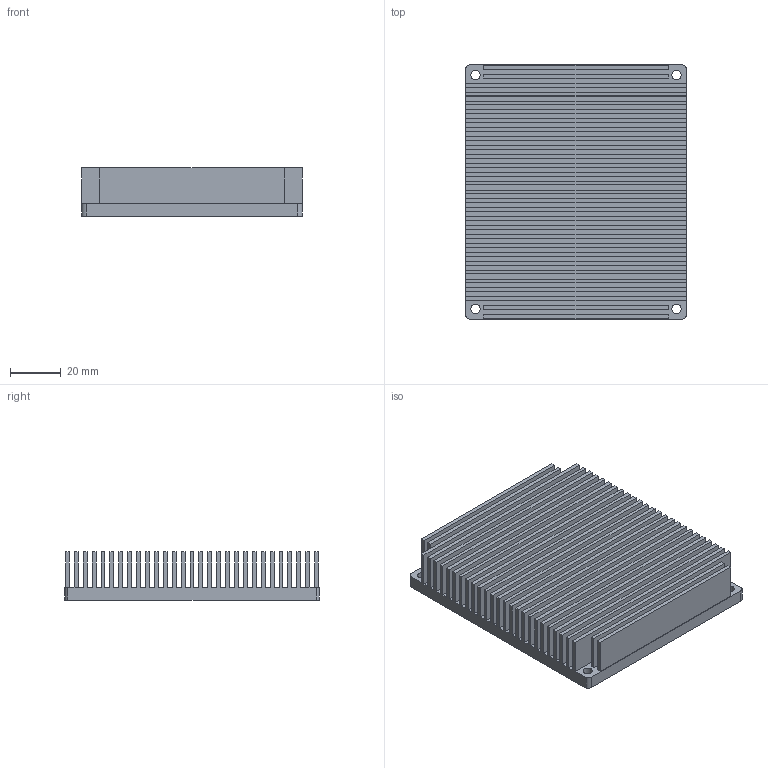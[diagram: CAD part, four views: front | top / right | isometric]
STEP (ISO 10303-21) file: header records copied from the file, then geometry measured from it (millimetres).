
FILE_DESCRIPTION(/* description */ ('Mechanical assembly'),/* implementation_level */ '2;1');
FILE_NAME(/* name */ 'cnc-milled-som-heatsink-cu.step',/* author */ 'Antmicro',/* time_stamp */ '2026-04-10T14:20:06.931432+02:00',/* commit_sha */ 'eddb39f28ccbc5f8daa44304dfdfea7f8db63fb1',/* commit_msg */ '[#94115] Update part description',/* generator */ 'stephen',/* generator_ver */ '0.0.1');
FILE_SCHEMA(('AUTOMOTIVE_DESIGN { 1 0 10303 214 1 1 1 1 }'));
Length unit declared in the file: millimetre
Products named in the file (1): C-JAT-SH-CU-N
Bounding box: 86.6 x 100 x 19.03 mm (x, y, z)
Volume: 94748.9 mm3; surface area: 89434.3 mm2
Topology: 1 solids, 1 shells, 134 faces, 384 edges, 256 vertices
Faces by surface type: plane 126, cylinder 8
Full cylindrical faces by diameter (mm): 3.7 x4
Entity records: 9346 total; most frequent: CARTESIAN_POINT 1591, DIRECTION 1430, LINE 1120, VECTOR 1120, ORIENTED_EDGE 768, PCURVE 768, DEFINITIONAL_REPRESENTATION 768, EDGE_CURVE 384
